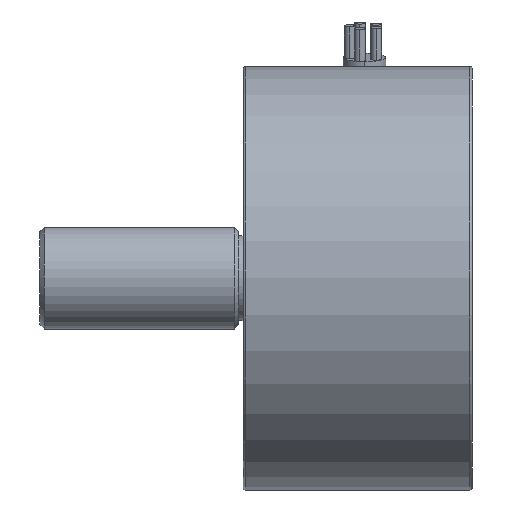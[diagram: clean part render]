
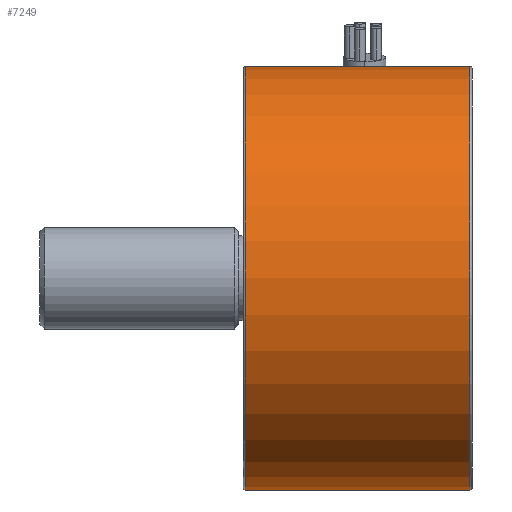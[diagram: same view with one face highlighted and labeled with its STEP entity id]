
A CAD part, left-side view. The second image highlights one B-rep face of the part: STEP entity #7249.
In plain terms, the highlighted cylindrical face has radius 25 mm (diameter 50 mm), a partial arc.
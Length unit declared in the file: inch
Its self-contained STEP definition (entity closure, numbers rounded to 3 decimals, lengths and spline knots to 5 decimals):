
#1637 = CIRCLE ( 'NONE', #15845, 0.98425 ) ;
#2078 = CIRCLE ( 'NONE', #3773, 0.98425 ) ;
#2638 = CARTESIAN_POINT ( 'NONE',  ( 0., 0.00984, 0.98425 ) ) ;
#2822 = CARTESIAN_POINT ( 'NONE',  ( 0., 1.06299, 0. ) ) ;
#2931 = CYLINDRICAL_SURFACE ( 'NONE', #6888, 0.98425 ) ;
#3042 = FACE_OUTER_BOUND ( 'NONE', #7970, .T. ) ;
#3217 = CARTESIAN_POINT ( 'NONE',  ( 0., 1.05315, 0. ) ) ;
#3318 = DIRECTION ( 'NONE',  ( 0., -1., 0. ) ) ;
#3574 = CARTESIAN_POINT ( 'NONE',  ( 0., 1.06299, -0.98425 ) ) ;
#3688 = ORIENTED_EDGE ( 'NONE', *, *, #18164, .F. ) ;
#3773 = AXIS2_PLACEMENT_3D ( 'NONE', #3217, #3318, #19533 ) ;
#6014 = DIRECTION ( 'NONE',  ( 0., -1., 0. ) ) ;
#6888 = AXIS2_PLACEMENT_3D ( 'NONE', #2822, #6014, #12479 ) ;
#7206 = ORIENTED_EDGE ( 'NONE', *, *, #20191, .T. ) ;
#7249 = ADVANCED_FACE ( 'NONE', ( #3042 ), #2931, .T. ) ;
#7970 = EDGE_LOOP ( 'NONE', ( #3688, #12491, #11537, #7206 ) ) ;
#7981 = CARTESIAN_POINT ( 'NONE',  ( 0., 0.00984, 0. ) ) ;
#8537 = VECTOR ( 'NONE', #8591, 39.37008 ) ;
#8591 = DIRECTION ( 'NONE',  ( 0., -1., 0. ) ) ;
#8596 = VERTEX_POINT ( 'NONE', #18502 ) ;
#9524 = VERTEX_POINT ( 'NONE', #20740 ) ;
#9647 = CARTESIAN_POINT ( 'NONE',  ( 0., 1.05315, 0.98425 ) ) ;
#10643 = EDGE_CURVE ( 'NONE', #8596, #9524, #16988, .T. ) ;
#11537 = ORIENTED_EDGE ( 'NONE', *, *, #10643, .T. ) ;
#11863 = LINE ( 'NONE', #14733, #8537 ) ;
#12479 = DIRECTION ( 'NONE',  ( 0., 0., -1. ) ) ;
#12491 = ORIENTED_EDGE ( 'NONE', *, *, #16215, .T. ) ;
#12747 = DIRECTION ( 'NONE',  ( 0., 1., 0. ) ) ;
#13671 = VERTEX_POINT ( 'NONE', #2638 ) ;
#14733 = CARTESIAN_POINT ( 'NONE',  ( 0., 1.06299, 0.98425 ) ) ;
#15845 = AXIS2_PLACEMENT_3D ( 'NONE', #7981, #12747, #16129 ) ;
#16129 = DIRECTION ( 'NONE',  ( 0., 0., 1. ) ) ;
#16215 = EDGE_CURVE ( 'NONE', #17498, #8596, #2078, .T. ) ;
#16988 = LINE ( 'NONE', #3574, #18579 ) ;
#17498 = VERTEX_POINT ( 'NONE', #9647 ) ;
#18164 = EDGE_CURVE ( 'NONE', #17498, #13671, #11863, .T. ) ;
#18502 = CARTESIAN_POINT ( 'NONE',  ( 0., 1.05315, -0.98425 ) ) ;
#18579 = VECTOR ( 'NONE', #19684, 39.37008 ) ;
#19533 = DIRECTION ( 'NONE',  ( 0., 0., 1. ) ) ;
#19684 = DIRECTION ( 'NONE',  ( 0., -1., 0. ) ) ;
#20191 = EDGE_CURVE ( 'NONE', #9524, #13671, #1637, .T. ) ;
#20740 = CARTESIAN_POINT ( 'NONE',  ( 0., 0.00984, -0.98425 ) ) ;
